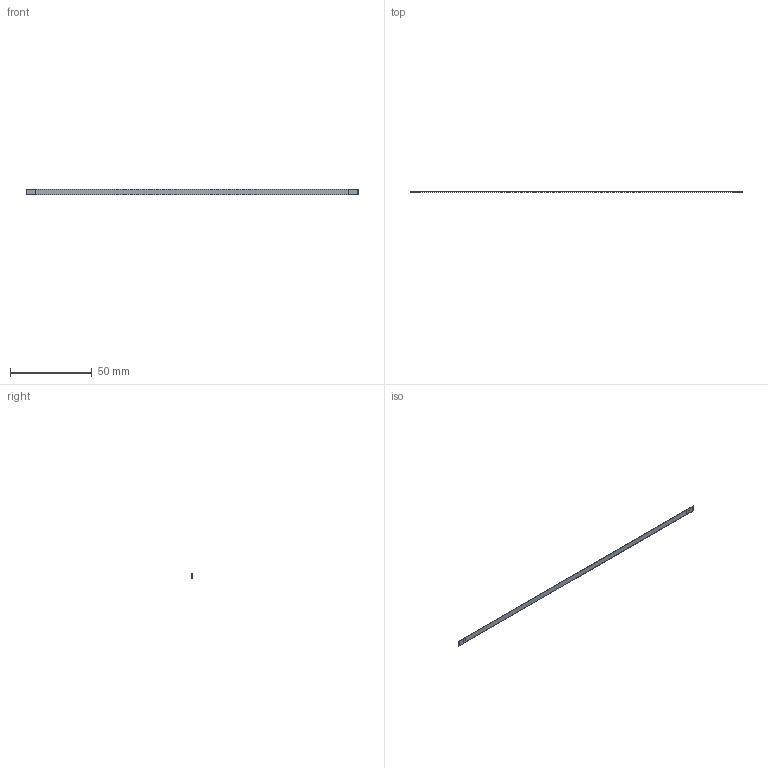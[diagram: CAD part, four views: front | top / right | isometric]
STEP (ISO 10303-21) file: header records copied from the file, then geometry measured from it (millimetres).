
FILE_DESCRIPTION (( 'STEP AP214' ), '1' );
FILE_NAME ('Cable_ACC037.STEP', '2021-07-29T06:49:09', ( '' ), ( '' ), 'SwSTEP 2.0', 'SolidWorks 2020', '' );
FILE_SCHEMA (( 'AUTOMOTIVE_DESIGN' ));
Length unit declared in the file: millimetre
Products named in the file (1): Cable_ACC037
Bounding box: 203 x 0.3 x 3.5 mm (x, y, z)
Volume: 111.4 mm3; surface area: 1488.8 mm2
Topology: 1 solids, 1 shells, 80 faces, 192 edges, 128 vertices
Faces by surface type: plane 80
Entity records: 2552 total; most frequent: CARTESIAN_POINT 401, ORIENTED_EDGE 384, DIRECTION 354, LINE 192, EDGE_CURVE 192, VECTOR 192, VERTEX_POINT 128, EDGE_LOOP 94
